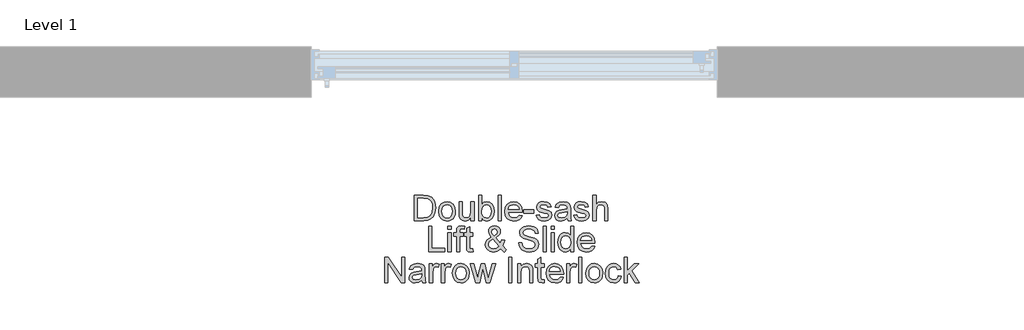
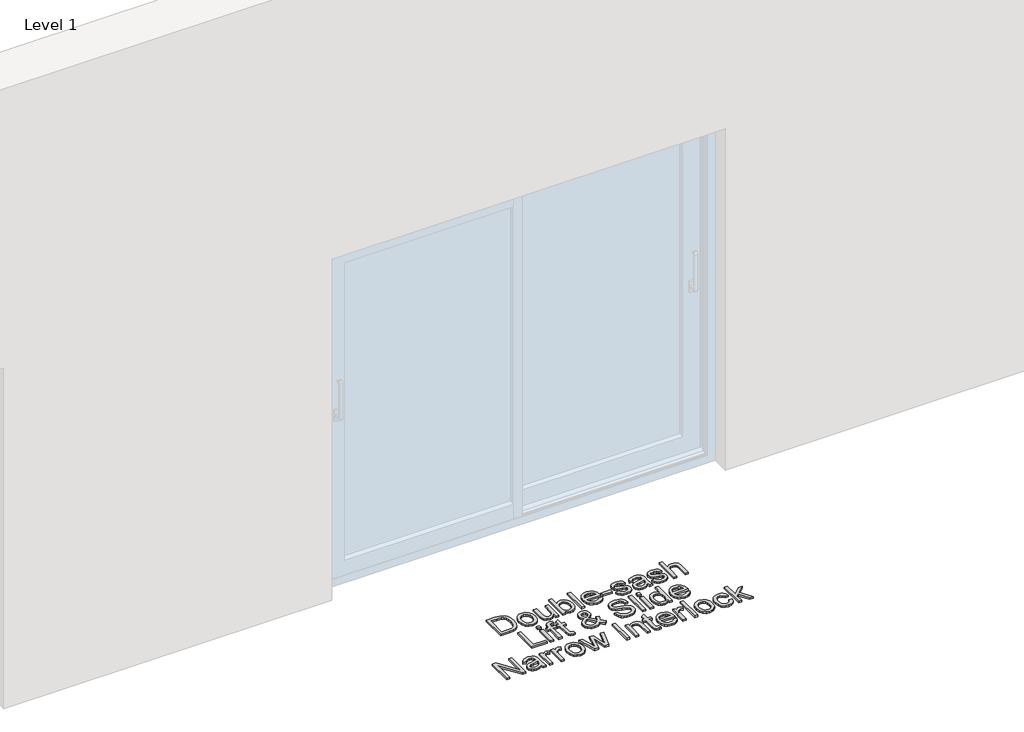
# One storey, part 3 of 13: 1 proxy.
"""IFC4 building model written with IfcOpenShell, lengths in millimetres."""

import ifcopenshell
import ifcopenshell.guid

model = None  # the IFC model being written
_history = None  # IfcOwnerHistory: only IFC2X3 demands one
_inside = {}  # id of a spatial element -> (the spatial element, [elements in it])
_under = {}  # id of a project, library or spatial element -> (it, [spatial elements below it])
_declared = {}  # id of a project -> (the project, [libraries it declares])
_typed = {}  # id of a type object -> (the type object, [elements of that type])
_made_of = {}  # id of a material, layer set ... -> (it, [elements and type objects made of it])


def new_model(schema):
    """Start an empty IFC model of exactly this schema.

    Asked for "IFC4X3", IfcOpenShell would pick the latest addendum, in which some entities
    have other attributes; the version numbers below select the first issue.
    IFC2X3 requires an IfcOwnerHistory on every rooted entity: one is made here for all.
    """
    global model, _history
    if schema == "IFC4X3":
        model = ifcopenshell.file(schema_version=(4, 3, 0, 0))
    else:
        model = ifcopenshell.file(schema=schema)
    _inside.clear()
    _under.clear()
    _declared.clear()
    _typed.clear()
    _made_of.clear()
    _history = None
    if model.schema == "IFC2X3":
        org = make("IfcOrganization", Name="unknown")
        user = make(
            "IfcPersonAndOrganization",
            ThePerson=make("IfcPerson", FamilyName="unknown"),
            TheOrganization=org,
        )
        app = make(
            "IfcApplication",
            ApplicationDeveloper=org,
            Version="unknown",
            ApplicationFullName="unknown",
            ApplicationIdentifier="unknown",
        )
        _history = make(
            "IfcOwnerHistory",
            OwningUser=user,
            OwningApplication=app,
            ChangeAction="ADDED",
            CreationDate=0,
        )
    return model


def make(cls, **values):
    """One entity of the class cls with the attributes given. An attribute that is None is left unset."""
    return model.create_entity(
        cls, **{name: value for name, value in values.items() if value is not None}
    )


def rooted(cls, **values):
    """An entity with a GlobalId (a new one), such as an element, a storey or a relation."""
    return make(cls, GlobalId=ifcopenshell.guid.new(), OwnerHistory=_history, **values)


def si_unit(unit_type, name, prefix=None):
    """IfcSIUnit, for example si_unit("LENGTHUNIT", "METRE", prefix="MILLI")."""
    return make("IfcSIUnit", UnitType=unit_type, Prefix=prefix, Name=name)


def assignment(units):
    """IfcUnitAssignment: the units of a project."""
    return None if units is None else make("IfcUnitAssignment", Units=units)


def point(xyz):
    """IfcCartesianPoint."""
    return None if xyz is None else make("IfcCartesianPoint", Coordinates=xyz)


def direction(xyz):
    """IfcDirection."""
    return None if xyz is None else make("IfcDirection", DirectionRatios=xyz)


def frame(location, z_axis=None, x_axis=None):
    """IfcAxis2Placement3D, a coordinate frame: its origin and axes. An axis left out is left unset."""
    return make(
        "IfcAxis2Placement3D",
        Location=point(location),
        Axis=direction(z_axis),
        RefDirection=direction(x_axis),
    )


def origin():
    """The frame at (0, 0, 0) with its axes left unset."""
    return frame((0.0, 0.0, 0.0))


def origin_with_axes():
    """The frame at (0, 0, 0) with the z axis (0, 0, 1) and the x axis (1, 0, 0) written out."""
    return frame((0.0, 0.0, 0.0), z_axis=(0.0, 0.0, 1.0), x_axis=(1.0, 0.0, 0.0))


def place(relative_to, where):
    """IfcLocalPlacement: puts the frame where relative to a parent placement (None: the world)."""
    return make(
        "IfcLocalPlacement", PlacementRelTo=relative_to, RelativePlacement=where
    )


def context(
    kind, dimensions, precision=None, world=None, true_north=None, identifier=None
):
    """IfcGeometricRepresentationContext, for example the 3D "Model" context."""
    return make(
        "IfcGeometricRepresentationContext",
        ContextIdentifier=identifier,
        ContextType=kind,
        CoordinateSpaceDimension=dimensions,
        Precision=precision,
        WorldCoordinateSystem=world,
        TrueNorth=true_north,
    )


def project(units=None, contexts=None):
    """IfcProject with its units and contexts."""
    return rooted(
        "IfcProject",
        Name="project",
        RepresentationContexts=contexts,
        UnitsInContext=assignment(units),
    )


def spatial(cls, under=None, at=None, **own):
    """A site, building, storey or space (cls), placed at a placement, below another one or the project."""
    s = rooted(cls, ObjectPlacement=at, **own)
    if under is not None:
        _under.setdefault(under.id(), (under, []))[1].append(s)
    return s


def polyline(points):
    """IfcPolyline through the points."""
    return make("IfcPolyline", Points=[point(p) for p in points])


def outline(outer, holes=None, kind="AREA"):
    """IfcArbitraryClosedProfileDef: a profile drawn as a closed curve; with holes, ...WithVoids."""
    if holes is None:
        return make("IfcArbitraryClosedProfileDef", ProfileType=kind, OuterCurve=outer)
    return make(
        "IfcArbitraryProfileDefWithVoids",
        ProfileType=kind,
        OuterCurve=outer,
        InnerCurves=holes,
    )


def extrude(swept, where, along, depth):
    """IfcExtrudedAreaSolid: the profile swept, set in the frame where, extruded along a direction by depth."""
    return make(
        "IfcExtrudedAreaSolid",
        SweptArea=swept,
        Position=where,
        ExtrudedDirection=direction(along),
        Depth=depth,
    )


def shape(context_of_items, identifier, shape_type, items):
    """IfcShapeRepresentation: the items that make up one representation, for example the "Body"."""
    return make(
        "IfcShapeRepresentation",
        ContextOfItems=context_of_items,
        RepresentationIdentifier=identifier,
        RepresentationType=shape_type,
        Items=items,
    )


def made_of(thing, what):
    """Note that an element or type object is made of a material, layer set ...; save() writes the relation."""
    if what is not None:
        _made_of.setdefault(what.id(), (what, []))[1].append(thing)
    return thing


def element(
    cls,
    number,
    at=None,
    inside=None,
    cuts=None,
    type_object=None,
    material=None,
    context=None,
    identifier="Body",
    shape_type=None,
    held_by="IfcProductDefinitionShape",
    body=None,
    shapes=None,
    **own,
):
    """One element of the class cls, such as IfcWall. Its Tag is "e" and its number.

    at: its placement. inside: the storey or other place that contains it. cuts: it is an
    opening in that element (IfcRelVoidsElement). A single representation is given by context,
    identifier, shape_type and body (its items); several are given by shapes. held_by: the class
    of the entity that holds the representations. save() writes the other relations.
    """
    e = rooted(cls, Tag="e%d" % number, ObjectPlacement=at, **own)
    if body is not None:
        shapes = [shape(context, identifier, shape_type, body)]
    if shapes is not None:
        e.Representation = make(held_by, Representations=shapes)
    if inside is not None:
        _inside.setdefault(inside.id(), (inside, []))[1].append(e)
    if cuts is not None:
        rooted(
            "IfcRelVoidsElement", RelatingBuildingElement=cuts, RelatedOpeningElement=e
        )
    if type_object is not None:
        _typed.setdefault(type_object.id(), (type_object, []))[1].append(e)
    return made_of(e, material)


def aggregate(whole, parts):
    """IfcRelAggregates: a whole, such as a stair, and the parts it consists of."""
    return rooted("IfcRelAggregates", RelatingObject=whole, RelatedObjects=parts)


def save(model, path):
    """Write the relations noted so far, then the file.

    IfcRelAggregates (storeys below a building ...), IfcRelContainedInSpatialStructure (elements
    in a storey), IfcRelDefinesByType, IfcRelAssociatesMaterial and IfcRelDeclares: one each for
    every whole, place, type object, material and project.
    """
    for whole, parts in _under.values():
        aggregate(whole, parts)
    for where, things in _inside.values():
        rooted(
            "IfcRelContainedInSpatialStructure",
            RelatedElements=things,
            RelatingStructure=where,
        )
    for kind, things in _typed.values():
        rooted("IfcRelDefinesByType", RelatedObjects=things, RelatingType=kind)
    for what, things in _made_of.values():
        rooted("IfcRelAssociatesMaterial", RelatedObjects=things, RelatingMaterial=what)
    for by, libraries in _declared.values():
        rooted("IfcRelDeclares", RelatingContext=by, RelatedDefinitions=libraries)
    model.write(path)


model = new_model("IFC4")

# Units and contexts
model_context = context("Model", 3, world=origin())
ifc_project = project(units=[si_unit("LENGTHUNIT", "METRE", prefix="MILLI")], contexts=[model_context])

# Site, building, storey
site = spatial("IfcSite", under=ifc_project)
building = spatial("IfcBuilding", under=site)
storey = spatial("IfcBuildingStorey", under=building, Name="Level 1", Elevation=0.0)

# Proxy
placement = place(None, origin())
element("IfcBuildingElementProxy", 1, Name="150mm Arial", ObjectType="150mm Arial", at=placement, inside=storey, context=model_context, shape_type="SweptSolid", body=[
    extrude(outline(polyline([(-1811.5990485, -897.6627533), (-1811.5990485, -746.9782881), (-1759.6173226, -746.9782881), (-1732.7251487, -749.1487919), (-1710.5786526, -759.9277343), (-1700.1583951, -771.4056526), (-1692.7363758, -785.679474), (-1688.2942007, -802.4732871), (-1686.8134757, -821.5111803), (-1690.8233895, -851.9166272), (-1701.1240853, -873.8607883), (-1714.8828719, -887.5276044), (-1732.8906956, -895.0875794), (-1757.115725, -897.6627533), (-1811.5990485, -897.6627533)]), holes=[polyline([(-1792.7634903, -878.8271952), (-1759.4333816, -878.8271952), (-1735.1899581, -876.1048684), (-1721.2104423, -868.4161347), (-1709.7509181, -849.7093353), (-1705.6490339, -821.2168747), (-1707.6585893, -800.6890594), (-1713.6872555, -785.5323212), (-1722.5945983, -775.1212607), (-1733.2401835, -768.8304786), (-1759.9484164, -765.8138463), (-1792.7634903, -765.8138463), (-1792.7634903, -878.8271952)])]), origin_with_axes(), (0.0, 0.0, 1.0), 10.0),
    extrude(outline(polyline([(-1667.9779176, -842.3333013), (-1663.9036245, -815.6526596), (-1651.6807452, -796.8998749), (-1636.5791893, -787.712022), (-1618.4977892, -784.6494044), (-1598.7103364, -788.3788081), (-1582.9052062, -799.5670193), (-1572.5447295, -817.3311212), (-1569.0912373, -840.7881969), (-1570.6179475, -859.8168931), (-1575.1980784, -874.3022466), (-1582.6982726, -885.150167), (-1592.9851728, -893.2665635), (-1605.2034536, -898.3295395), (-1618.4977892, -900.0171981), (-1638.5243653, -896.30159), (-1654.3111014, -885.1547655), (-1664.5612135, -867.0181831), (-1667.9779176, -842.3333013)]), holes=[polyline([(-1649.1423594, -842.2965131), (-1646.9626586, -859.343245), (-1640.4235561, -871.4879494), (-1630.5827127, -878.7582173), (-1618.4977892, -881.18164), (-1606.468048, -878.7444217), (-1596.6455987, -871.4327671), (-1590.1064962, -859.1271143), (-1587.9267954, -841.7079019), (-1590.1202918, -825.1578106), (-1596.700781, -813.1786531), (-1606.5370258, -805.9083852), (-1618.4977892, -803.4849626), (-1630.5827127, -805.8991882), (-1640.4235561, -813.141865), (-1646.9626586, -825.2589782), (-1649.1423594, -842.2965131)])]), origin_with_axes(), (0.0, 0.0, 1.0), 10.0),
    extrude(outline(polyline([(-1477.2678913, -897.6627533), (-1477.2678913, -878.6432542), (-1492.0199593, -894.6737121), (-1511.2601876, -900.0171981), (-1528.9737057, -896.2648018), (-1541.1873879, -886.8470227), (-1546.7975883, -872.9778715), (-1547.9012343, -855.4666885), (-1547.9012343, -787.0038492), (-1529.0656762, -787.0038492), (-1529.0656762, -846.6007324), (-1527.925242, -865.8041726), (-1520.4756316, -877.0797557), (-1506.4409335, -881.18164), (-1490.7139782, -876.9877852), (-1480.3213118, -865.5650493), (-1477.2678913, -844.5773814), (-1477.2678913, -787.0038492), (-1458.4323331, -787.0038492), (-1458.4323331, -897.6627533), (-1477.2678913, -897.6627533)])), origin_with_axes(), (0.0, 0.0, 1.0), 10.0),
    extrude(outline(polyline([(-1413.6978825, -897.6627533), (-1432.5334406, -897.6627533), (-1432.5334406, -746.9782881), (-1413.6978825, -746.9782881), (-1413.6978825, -802.8595632), (-1400.509313, -789.2019441), (-1384.1201701, -784.6494044), (-1365.2478237, -788.7512887), (-1350.6061203, -800.2843892), (-1341.6114055, -818.2186365), (-1338.3556499, -840.6778323), (-1341.7263687, -865.8225667), (-1351.838525, -884.5293661), (-1366.677965, -896.1452401), (-1384.2305347, -900.0171981), (-1400.9783625, -895.0232), (-1413.6978825, -880.0412058), (-1413.6978825, -897.6627533)]), holes=[polyline([(-1413.6978825, -841.5607491), (-1412.4102955, -857.2693103), (-1408.5475346, -867.9010999), (-1398.6791, -877.861505), (-1385.8492155, -881.18164), (-1374.9783025, -878.7352247), (-1365.6892821, -871.3959789), (-1359.3157266, -859.2098878), (-1357.191208, -842.2229367), (-1359.2283546, -824.9876652), (-1365.3397942, -812.9395299), (-1374.3391075, -805.8486044), (-1385.0398751, -803.4849626), (-1395.910788, -805.9313778), (-1405.1998084, -813.2706236), (-1411.573364, -825.2359855), (-1413.6978825, -841.5607491)])]), origin_with_axes(), (0.0, 0.0, 1.0), 10.0),
    extrude(outline(polyline([(-1317.165647, -897.6627533), (-1317.165647, -746.9782881), (-1298.3300888, -746.9782881), (-1298.3300888, -897.6627533), (-1317.165647, -897.6627533)])), origin_with_axes(), (0.0, 0.0, 1.0), 10.0),
    extrude(outline(polyline([(-1192.6008034, -864.7005266), (-1174.1331272, -867.0549713), (-1180.7871928, -880.9701078), (-1191.4051869, -891.3719712), (-1205.7479862, -897.8558914), (-1223.5764674, -900.0171981), (-1245.6769782, -896.2877944), (-1262.6823235, -885.0995832), (-1273.5256453, -867.1791315), (-1277.1400859, -843.2530063), (-1273.4888571, -818.5221391), (-1262.5351707, -800.0268718), (-1245.7597517, -788.4937713), (-1224.6433252, -784.6494044), (-1204.1844877, -788.4845742), (-1187.8367316, -799.9900836), (-1177.1175699, -818.4485627), (-1173.544516, -843.1426417), (-1173.6548806, -848.2194132), (-1258.3045277, -848.2194132), (-1255.0441735, -862.3184907), (-1247.470403, -872.6835659), (-1236.5397092, -879.0571214), (-1223.2085854, -881.18164), (-1204.7409092, -877.2453026), (-1192.6008034, -864.7005266)]), holes=[polyline([(-1258.3045277, -829.383855), (-1192.3800742, -829.383855), (-1194.927657, -819.4326471), (-1199.9216551, -812.3141305), (-1210.9029326, -805.6922545), (-1224.7169016, -803.4849626), (-1237.4134289, -805.2461976), (-1247.9118614, -810.5299028), (-1255.2097204, -818.765861), (-1258.3045277, -829.383855)])]), origin_with_axes(), (0.0, 0.0, 1.0), 10.0),
    extrude(outline(polyline([(-1164.126737, -852.9283027), (-1164.126737, -834.0927446), (-1105.2656177, -834.0927446), (-1105.2656177, -852.9283027), (-1164.126737, -852.9283027)])), origin_with_axes(), (0.0, 0.0, 1.0), 10.0),
    extrude(outline(polyline([(-1091.1389491, -864.7005266), (-1072.303391, -862.3460818), (-1069.3327439, -870.4026975), (-1063.5845877, -876.3255976), (-1043.6085953, -881.18164), (-1024.4051552, -876.7302678), (-1018.1511613, -866.2824192), (-1019.7238568, -861.4815591), (-1024.4419434, -857.8211333), (-1043.8293245, -852.4500561), (-1072.1930264, -843.2346122), (-1084.5722555, -832.4740638), (-1088.7845044, -817.2805374), (-1085.39999, -803.2458393), (-1076.1661519, -792.5220791), (-1064.191593, -786.9486669), (-1047.9863911, -784.6494044), (-1025.0673428, -788.3466185), (-1010.4992158, -798.3530087), (-1004.0244927, -815.2571864), (-1022.8600508, -817.6116312), (-1029.9417792, -807.2189648), (-1046.5148631, -803.4849626), (-1064.5410809, -807.0534179), (-1069.9489462, -815.367551), (-1067.704866, -820.8489927), (-1060.6783199, -825.0060593), (-1044.4547239, -829.015973), (-1016.808392, -837.8819291), (-1003.9693104, -847.9251076), (-999.3156031, -864.2958564), (-1004.7786508, -882.3220741), (-1020.5423942, -895.4002791), (-1043.8661127, -900.0171981), (-1062.8580207, -897.791512), (-1076.7179749, -891.1144538), (-1085.9702071, -880.0595999), (-1091.1389491, -864.7005266)])), origin_with_axes(), (0.0, 0.0, 1.0), 10.0),
    extrude(outline(polyline([(-907.4922571, -883.5360847), (-925.7575982, -896.30159), (-945.9359256, -900.0171981), (-961.6766765, -897.782315), (-973.287952, -891.0776656), (-980.4478553, -880.8965314), (-982.8344897, -868.2321937), (-979.2292462, -853.3329729), (-969.7562848, -842.5172423), (-956.5677153, -836.3368247), (-940.2705429, -833.5041334), (-907.6026217, -827.0294103), (-907.4922571, -822.8355555), (-908.7890412, -814.4294519), (-912.6793933, -808.9296161), (-921.3798024, -804.846126), (-933.5015142, -803.4849626), (-952.5578015, -807.1086002), (-961.6444868, -819.966076), (-980.480045, -817.6116312), (-972.3314588, -799.2175314), (-955.9239218, -788.438589), (-931.073493, -784.6494044), (-908.2464152, -787.9971306), (-895.3521513, -796.4032342), (-889.576404, -809.1871335), (-888.656699, -825.6682469), (-888.656699, -849.10233), (-887.7002058, -881.8254334), (-883.9478094, -897.6627533), (-902.7833676, -897.6627533), (-907.4922571, -883.5360847)]), holes=[polyline([(-907.4922571, -845.8649684), (-937.8793099, -851.6407157), (-954.0845118, -854.6941363), (-961.4237576, -859.6605432), (-963.9989316, -866.9078185), (-958.3887312, -877.0981498), (-941.9260119, -881.18164), (-922.8697245, -876.6750855), (-910.5824659, -865.7673844), (-907.6026217, -851.1992574), (-907.4922571, -845.8649684)])]), origin_with_axes(), (0.0, 0.0, 1.0), 10.0),
    extrude(outline(polyline([(-869.8211408, -864.7005266), (-850.9855827, -862.3460818), (-848.0149356, -870.4026975), (-842.2667794, -876.3255976), (-822.290787, -881.18164), (-803.0873469, -876.7302678), (-796.833353, -866.2824192), (-798.4060485, -861.4815591), (-803.1241351, -857.8211333), (-822.5115162, -852.4500561), (-850.8752181, -843.2346122), (-863.2544472, -832.4740638), (-867.4666961, -817.2805374), (-864.0821817, -803.2458393), (-854.8483436, -792.5220791), (-842.8737847, -786.9486669), (-826.6685828, -784.6494044), (-803.7495345, -788.3466185), (-789.1814075, -798.3530087), (-782.7066844, -815.2571864), (-801.5422425, -817.6116312), (-808.6239709, -807.2189648), (-825.1970548, -803.4849626), (-843.2232726, -807.0534179), (-848.6311379, -815.367551), (-846.3870577, -820.8489927), (-839.3605116, -825.0060593), (-823.1369156, -829.015973), (-795.4905837, -837.8819291), (-782.6515021, -847.9251076), (-777.9977948, -864.2958564), (-783.4608425, -882.3220741), (-799.2245859, -895.4002791), (-822.5483044, -900.0171981), (-841.5402124, -897.791512), (-855.4001666, -891.1144538), (-864.6523988, -880.0595999), (-869.8211408, -864.7005266)])), origin_with_axes(), (0.0, 0.0, 1.0), 10.0),
    extrude(outline(polyline([(-756.8077919, -897.6627533), (-756.8077919, -746.9782881), (-737.9722338, -746.9782881), (-737.9722338, -802.3813166), (-723.2845451, -789.0823825), (-705.193948, -784.6494044), (-684.0407333, -789.4870527), (-671.2016516, -802.8595632), (-667.3388907, -827.6180215), (-667.3388907, -897.6627533), (-686.1744488, -897.6627533), (-686.1744488, -829.567796), (-687.673568, -817.7771781), (-692.1709254, -809.7021683), (-699.4182007, -805.039264), (-709.1670735, -803.4849626), (-724.5997232, -807.6788173), (-734.9004191, -819.046371), (-737.9722338, -838.8752105), (-737.9722338, -897.6627533), (-756.8077919, -897.6627533)])), origin_with_axes(), (0.0, 0.0, 1.0), 10.0),
    extrude(outline(polyline([(-1726.8390368, -1080.6249801), (-1726.8390368, -929.9405149), (-1708.0034786, -929.9405149), (-1708.0034786, -1061.789422), (-1632.661246, -1061.789422), (-1632.661246, -1080.6249801), (-1726.8390368, -1080.6249801)])), origin_with_axes(), (0.0, 0.0, 1.0), 10.0),
    extrude(outline(polyline([(-1613.8256879, -948.776073), (-1613.8256879, -929.9405149), (-1594.9901297, -929.9405149), (-1594.9901297, -948.776073), (-1613.8256879, -948.776073)])), origin_with_axes(), (0.0, 0.0, 1.0), 10.0),
    extrude(outline(polyline([(-1613.8256879, -1080.6249801), (-1613.8256879, -969.966076), (-1594.9901297, -969.966076), (-1594.9901297, -1080.6249801), (-1613.8256879, -1080.6249801)])), origin_with_axes(), (0.0, 0.0, 1.0), 10.0),
    extrude(outline(polyline([(-1562.0279029, -1080.6249801), (-1562.0279029, -988.8016341), (-1578.5090163, -988.8016341), (-1578.5090163, -969.966076), (-1562.0279029, -969.966076), (-1562.0279029, -958.8192515), (-1560.0413402, -943.1106903), (-1550.4028319, -931.8902895), (-1531.4201209, -927.5860701), (-1514.2400318, -929.6462093), (-1516.9991467, -947.3045451), (-1527.8516656, -946.4216283), (-1539.7158599, -949.5486252), (-1543.1923448, -961.2104845), (-1543.1923448, -969.966076), (-1522.0023419, -969.966076), (-1522.0023419, -988.8016341), (-1543.1923448, -988.8016341), (-1543.1923448, -1080.6249801), (-1562.0279029, -1080.6249801)])), origin_with_axes(), (0.0, 0.0, 1.0), 10.0),
    extrude(outline(polyline([(-1465.4956674, -1064.9164189), (-1463.1412226, -1081.1768031), (-1477.2311031, -1082.9794249), (-1493.0132407, -1079.8524279), (-1500.8859153, -1071.6486594), (-1503.1667837, -1050.2747155), (-1503.1667837, -988.8016341), (-1517.2934523, -988.8016341), (-1517.2934523, -969.966076), (-1503.1667837, -969.966076), (-1503.1667837, -943.0739021), (-1484.3312256, -932.0006541), (-1484.3312256, -969.966076), (-1465.4956674, -969.966076), (-1465.4956674, -988.8016341), (-1484.3312256, -988.8016341), (-1484.3312256, -1049.7228925), (-1483.3379442, -1059.4349772), (-1480.1189767, -1062.8746738), (-1473.6994359, -1064.1438667), (-1465.4956674, -1064.9164189)])), origin_with_axes(), (0.0, 0.0, 1.0), 10.0),
    extrude(outline(polyline([(-1301.3835094, -1062.0101512), (-1321.3595017, -1077.7371064), (-1344.7200084, -1082.9794249), (-1365.5053411, -1079.0982698), (-1381.5082079, -1067.4548047), (-1389.7579617, -1054.054703), (-1392.5078796, -1039.1646793), (-1390.2959891, -1025.9669127), (-1383.6603176, -1014.1119154), (-1372.6284563, -1003.6088844), (-1357.2279962, -994.4670168), (-1370.3797776, -975.4107295), (-1373.6723214, -961.2840609), (-1371.0787533, -948.5645409), (-1363.2980492, -937.6292486), (-1351.5902047, -930.0968647), (-1337.2152157, -927.5860701), (-1323.5392025, -929.9865001), (-1312.6039102, -937.1877902), (-1305.4302113, -947.7552005), (-1303.0389783, -960.2539913), (-1304.8094104, -970.7478252), (-1310.1207067, -980.4507128), (-1331.365892, -997.4836492), (-1304.1058361, -1031.4391574), (-1295.975644, -1010.5802482), (-1277.1400859, -1014.6637384), (-1290.4574141, -1045.6761906), (-1267.7223068, -1068.4848743), (-1281.8489754, -1082.9794249), (-1301.3835094, -1062.0101512)]), holes=[polyline([(-1340.8940356, -985.6010608), (-1325.4062036, -973.9208074), (-1321.8745365, -962.8291653), (-1326.5282437, -951.0017591), (-1338.1717089, -946.4216283), (-1350.0726914, -950.9649709), (-1354.8367633, -962.0566131), (-1353.2180825, -968.9544005), (-1348.3252519, -976.6247401), (-1340.8940356, -985.6010608)]), polyline([(-1314.0018618, -1048.4353055), (-1347.6262762, -1006.4599699), (-1368.3196384, -1022.2421075), (-1373.6723214, -1036.6630817), (-1371.8421085, -1045.5474319), (-1366.3514697, -1054.7628758), (-1357.5039077, -1061.798619), (-1345.6029252, -1064.1438667), (-1328.2940773, -1059.766071), (-1314.0018618, -1048.4353055)])]), origin_with_axes(), (0.0, 0.0, 1.0), 10.0),
    extrude(outline(polyline([(-1194.734519, -1028.8271952), (-1175.8989608, -1028.8271952), (-1169.8289079, -1047.6811474), (-1155.0032635, -1059.6005241), (-1132.415309, -1064.1438667), (-1112.7336222, -1060.7041701), (-1100.0232993, -1051.2496028), (-1095.8478387, -1038.6128563), (-1098.9748356, -1026.8590265), (-1111.777129, -1018.3057701), (-1139.2027318, -1011.1136771), (-1168.7252619, -1001.8246567), (-1184.7465228, -987.8083527), (-1190.0256294, -969.0831592), (-1188.3931531, -958.0512978), (-1183.495724, -947.7643976), (-1175.4621009, -939.0455943), (-1164.4210426, -932.7180239), (-1136.4987991, -927.5860701), (-1106.7003575, -932.9571472), (-1095.2776216, -939.5882202), (-1086.8347298, -948.7392848), (-1081.4912438, -959.840124), (-1079.3667253, -972.3205207), (-1098.2022834, -972.3205207), (-1101.6603742, -961.0817258), (-1108.8708613, -952.9699278), (-1120.1372474, -948.0587031), (-1135.7630351, -946.4216283), (-1151.7567049, -948.040309), (-1162.7287854, -952.8963514), (-1169.0747498, -960.0424591), (-1171.1900713, -968.5313362), (-1169.6909521, -975.7694144), (-1165.1935947, -981.591147), (-1134.43866, -992.1125721), (-1101.1085512, -1001.5671393), (-1090.3709955, -1008.4005474), (-1082.8799983, -1016.8342421), (-1078.47921, -1026.7762531), (-1077.0122805, -1038.1346097), (-1078.6999392, -1049.7458851), (-1083.7629151, -1060.6673819), (-1091.9942748, -1070.0667668), (-1103.1870845, -1077.1117071), (-1116.646967, -1081.5124954), (-1131.679545, -1082.9794249), (-1150.1334256, -1081.3975323), (-1165.3223534, -1076.6518546), (-1177.4210726, -1068.7239976), (-1186.6043269, -1057.5955672), (-1192.4996358, -1044.0391157), (-1194.734519, -1028.8271952)])), origin_with_axes(), (0.0, 0.0, 1.0), 10.0),
    extrude(outline(polyline([(-1051.113388, -1080.6249801), (-1051.113388, -929.9405149), (-1032.2778299, -929.9405149), (-1032.2778299, -1080.6249801), (-1051.113388, -1080.6249801)])), origin_with_axes(), (0.0, 0.0, 1.0), 10.0),
    extrude(outline(polyline([(-1004.0244927, -948.776073), (-1004.0244927, -929.9405149), (-985.1889345, -929.9405149), (-985.1889345, -948.776073), (-1004.0244927, -948.776073)])), origin_with_axes(), (0.0, 0.0, 1.0), 10.0),
    extrude(outline(polyline([(-1004.0244927, -1080.6249801), (-1004.0244927, -969.966076), (-985.1889345, -969.966076), (-985.1889345, -1080.6249801), (-1004.0244927, -1080.6249801)])), origin_with_axes(), (0.0, 0.0, 1.0), 10.0),
    extrude(outline(polyline([(-888.656699, -1080.6249801), (-888.656699, -1062.8562797), (-901.1187016, -1077.9486386), (-918.344776, -1082.9794249), (-930.52167, -1081.158409), (-941.6684945, -1075.6953614), (-951.1046677, -1066.9719596), (-958.1496079, -1055.3698811), (-962.5366007, -1041.3581756), (-963.9989316, -1025.4058926), (-958.6094604, -995.42351), (-951.8772198, -983.5317245), (-942.4594408, -974.7853301), (-931.0688945, -969.4050559), (-918.4183524, -967.6116312), (-901.0543222, -972.743585), (-888.656699, -986.0793073), (-888.656699, -929.9405149), (-869.8211408, -929.9405149), (-869.8211408, -1080.6249801), (-888.656699, -1080.6249801)]), holes=[polyline([(-945.1633734, -1025.3323162), (-943.0388549, -1042.3698511), (-936.6652993, -1054.4869644), (-927.4038701, -1061.7296411), (-916.6157306, -1064.1438667), (-905.8321896, -1061.8400057), (-896.8052852, -1054.9284227), (-890.6938455, -1043.2803591), (-888.656699, -1026.767056), (-890.7306337, -1008.7132471), (-896.952438, -996.1960622), (-906.2092687, -988.8844076), (-917.3882828, -986.4471893), (-928.2867869, -988.7878385), (-937.2171223, -995.8097861), (-943.1768107, -1007.871717), (-945.1633734, -1025.3323162)])]), origin_with_axes(), (0.0, 0.0, 1.0), 10.0),
    extrude(outline(polyline([(-764.0918554, -1047.6627533), (-745.6241792, -1050.0171981), (-752.2782448, -1063.9323346), (-762.8962389, -1074.334198), (-777.2390382, -1080.8181182), (-795.0675194, -1082.9794249), (-817.1680303, -1079.2500212), (-834.1733755, -1068.06181), (-845.0166973, -1050.1413583), (-848.6311379, -1026.215233), (-844.9799091, -1001.4843659), (-834.0262227, -982.9890986), (-817.2508037, -971.455998), (-796.1343772, -967.6116312), (-775.6755397, -971.446801), (-759.3277836, -982.9523104), (-748.6086219, -1001.4107895), (-745.0355681, -1026.1048684), (-745.1459327, -1031.18164), (-829.7955797, -1031.18164), (-826.5352256, -1045.2807174), (-818.961455, -1055.6457926), (-808.0307612, -1062.0193482), (-794.6996374, -1064.1438667), (-776.2319612, -1060.2075294), (-764.0918554, -1047.6627533)]), holes=[polyline([(-829.7955797, -1012.3460818), (-763.8711262, -1012.3460818), (-766.418709, -1002.3948738), (-771.4127071, -995.2763572), (-782.3939847, -988.6544813), (-796.2079536, -986.4471893), (-808.9044809, -988.2084244), (-819.4029134, -993.4921296), (-826.7007725, -1001.7280877), (-829.7955797, -1012.3460818)])]), origin_with_axes(), (0.0, 0.0, 1.0), 10.0),
    extrude(outline(polyline([(-1987.0051838, -1263.5872069), (-1987.0051838, -1112.9027417), (-1966.8452504, -1112.9027417), (-1888.1185035, -1232.2804491), (-1888.1185035, -1112.9027417), (-1869.2829453, -1112.9027417), (-1869.2829453, -1263.5872069), (-1889.4428787, -1263.5872069), (-1968.1696256, -1144.1727112), (-1968.1696256, -1263.5872069), (-1987.0051838, -1263.5872069)])), origin_with_axes(), (0.0, 0.0, 1.0), 10.0),
    extrude(outline(polyline([(-1768.0418202, -1249.4605383), (-1786.3071613, -1262.2260435), (-1806.4854887, -1265.9416516), (-1822.2262396, -1263.7067685), (-1833.8375151, -1257.0021192), (-1840.9974184, -1246.8209849), (-1843.3840529, -1234.1566473), (-1839.7788093, -1219.2574265), (-1830.3058479, -1208.4416958), (-1817.1172784, -1202.2612783), (-1800.820106, -1199.4285869), (-1768.1521848, -1192.9538638), (-1768.0418202, -1188.7600091), (-1769.3386043, -1180.3539055), (-1773.2289564, -1174.8540696), (-1781.9293656, -1170.7705795), (-1794.0510773, -1169.4094161), (-1813.1073647, -1173.0330538), (-1822.1940499, -1185.8905295), (-1841.0296081, -1183.5360847), (-1832.8810219, -1165.141985), (-1816.4734849, -1154.3630425), (-1791.6230561, -1150.573858), (-1768.7959783, -1153.9215841), (-1755.9017144, -1162.3276877), (-1750.1259671, -1175.111587), (-1749.2062621, -1191.5927004), (-1749.2062621, -1215.0267835), (-1748.2497689, -1247.749887), (-1744.4973726, -1263.5872069), (-1763.3329307, -1263.5872069), (-1768.0418202, -1249.4605383)]), holes=[polyline([(-1768.0418202, -1211.789422), (-1798.428873, -1217.5651693), (-1814.6340749, -1220.6185898), (-1821.9733207, -1225.5849968), (-1824.5484947, -1232.8322721), (-1818.9382943, -1243.0226033), (-1802.475575, -1247.1060935), (-1783.4192876, -1242.5995391), (-1771.132029, -1231.6918379), (-1768.1521848, -1217.1237109), (-1768.0418202, -1211.789422)])]), origin_with_axes(), (0.0, 0.0, 1.0), 10.0),
    extrude(outline(polyline([(-1723.3073696, -1263.5872069), (-1723.3073696, -1152.9283027), (-1706.8262562, -1152.9283027), (-1706.8262562, -1169.2990515), (-1695.1276088, -1154.2158897), (-1683.355385, -1150.573858), (-1664.4462504, -1156.3863935), (-1670.7370325, -1173.2721771), (-1683.9807843, -1169.4094161), (-1694.6309681, -1173.1250243), (-1701.4183909, -1183.4257201), (-1704.4718115, -1205.4250634), (-1704.4718115, -1263.5872069), (-1723.3073696, -1263.5872069)])), origin_with_axes(), (0.0, 0.0, 1.0), 10.0),
    extrude(outline(polyline([(-1652.6740266, -1263.5872069), (-1652.6740266, -1152.9283027), (-1636.1929132, -1152.9283027), (-1636.1929132, -1169.2990515), (-1624.4942657, -1154.2158897), (-1612.7220419, -1150.573858), (-1593.8129073, -1156.3863935), (-1600.1036894, -1173.2721771), (-1613.3474413, -1169.4094161), (-1623.997625, -1173.1250243), (-1630.7850478, -1183.4257201), (-1633.8384684, -1205.4250634), (-1633.8384684, -1263.5872069), (-1652.6740266, -1263.5872069)])), origin_with_axes(), (0.0, 0.0, 1.0), 10.0),
    extrude(outline(polyline([(-1586.749573, -1208.2577548), (-1582.6752799, -1181.5771131), (-1570.4524006, -1162.8243284), (-1555.3508447, -1153.6364756), (-1537.2694447, -1150.573858), (-1517.4819919, -1154.3032617), (-1501.6768616, -1165.4914729), (-1491.3163849, -1183.2555747), (-1487.8628927, -1206.7126504), (-1489.389603, -1225.7413466), (-1493.9697338, -1240.2267002), (-1501.469928, -1251.0746205), (-1511.7568283, -1259.191017), (-1523.9751091, -1264.253993), (-1537.2694447, -1265.9416516), (-1557.2960208, -1262.2260435), (-1573.0827569, -1251.079219), (-1583.332869, -1232.9426367), (-1586.749573, -1208.2577548)]), holes=[polyline([(-1567.9140149, -1208.2209666), (-1565.734314, -1225.2676986), (-1559.1952116, -1237.4124029), (-1549.3543682, -1244.6826709), (-1537.2694447, -1247.1060935), (-1525.2397034, -1244.6688753), (-1515.4172542, -1237.3572206), (-1508.8781517, -1225.0515679), (-1506.6984509, -1207.6323554), (-1508.8919473, -1191.0822642), (-1515.4724365, -1179.1031067), (-1525.3086813, -1171.8328388), (-1537.2694447, -1169.4094161), (-1549.3543682, -1171.8236417), (-1559.1952116, -1179.0663185), (-1565.734314, -1191.1834317), (-1567.9140149, -1208.2209666)])]), origin_with_axes(), (0.0, 0.0, 1.0), 10.0),
    extrude(outline(polyline([(-1448.3155782, -1263.5872069), (-1481.9767808, -1152.9283027), (-1462.4054587, -1152.9283027), (-1443.3123831, -1217.4915929), (-1437.6102122, -1240.557794), (-1432.9381108, -1218.3377215), (-1417.7445844, -1152.9283027), (-1395.3037827, -1152.9283027), (-1380.1838327, -1218.1537805), (-1376.0267662, -1238.2769256), (-1370.0670779, -1217.0501345), (-1350.9372141, -1152.9283027), (-1331.2923156, -1152.9283027), (-1365.2110355, -1263.5872069), (-1387.982931, -1263.5872069), (-1402.4406934, -1198.6928229), (-1406.6345482, -1178.4593132), (-1425.2861653, -1263.5872069), (-1448.3155782, -1263.5872069)])), origin_with_axes(), (0.0, 0.0, 1.0), 10.0),
    extrude(outline(polyline([(-1254.7728606, -1263.5872069), (-1254.7728606, -1112.9027417), (-1235.9373024, -1112.9027417), (-1235.9373024, -1263.5872069), (-1254.7728606, -1263.5872069)])), origin_with_axes(), (0.0, 0.0, 1.0), 10.0),
    extrude(outline(polyline([(-1200.6206309, -1263.5872069), (-1200.6206309, -1152.9283027), (-1181.7850727, -1152.9283027), (-1181.7850727, -1168.3793465), (-1167.3824926, -1155.0252301), (-1147.7192, -1150.573858), (-1129.9321055, -1154.1607074), (-1117.7919997, -1163.5784865), (-1112.145011, -1177.4292436), (-1111.1517297, -1195.6394024), (-1111.1517297, -1263.5872069), (-1129.9872878, -1263.5872069), (-1129.9872878, -1198.1777881), (-1132.1577916, -1181.5127338), (-1139.8281312, -1172.70196), (-1152.7591833, -1169.4094161), (-1163.7910446, -1171.2580231), (-1173.1950281, -1176.8038442), (-1179.6375616, -1187.5184073), (-1181.7850727, -1204.8732404), (-1181.7850727, -1263.5872069), (-1200.6206309, -1263.5872069)])), origin_with_axes(), (0.0, 0.0, 1.0), 10.0),
    extrude(outline(polyline([(-1045.2272761, -1247.8786457), (-1042.8728314, -1264.1390299), (-1056.9627118, -1265.9416516), (-1072.7448494, -1262.8146547), (-1080.6175241, -1254.6108862), (-1082.8983924, -1233.2369423), (-1082.8983924, -1171.7638609), (-1097.025061, -1171.7638609), (-1097.025061, -1152.9283027), (-1082.8983924, -1152.9283027), (-1082.8983924, -1126.0361289), (-1064.0628343, -1114.9628808), (-1064.0628343, -1152.9283027), (-1045.2272761, -1152.9283027), (-1045.2272761, -1171.7638609), (-1064.0628343, -1171.7638609), (-1064.0628343, -1232.6851193), (-1063.0695529, -1242.397204), (-1059.8505854, -1245.8369006), (-1053.4310446, -1247.1060935), (-1045.2272761, -1247.8786457)])), origin_with_axes(), (0.0, 0.0, 1.0), 10.0),
    extrude(outline(polyline([(-948.9157698, -1230.6249801), (-930.4480936, -1232.9794249), (-937.1021592, -1246.8945613), (-947.7201533, -1257.2964248), (-962.0629526, -1263.7803449), (-979.8914338, -1265.9416516), (-1001.9919446, -1262.2122479), (-1018.9972899, -1251.0240367), (-1029.8406117, -1233.1035851), (-1033.4550523, -1209.1774598), (-1029.8038235, -1184.4465927), (-1018.8501371, -1165.9513254), (-1002.0747181, -1154.4182248), (-980.9582916, -1150.573858), (-960.4994541, -1154.4090278), (-944.1516979, -1165.9145372), (-933.4325363, -1184.3730163), (-929.8594824, -1209.0670952), (-929.969847, -1214.1438667), (-1014.6194941, -1214.1438667), (-1011.3591399, -1228.2429442), (-1003.7853694, -1238.6080194), (-992.8546756, -1244.981575), (-979.5235518, -1247.1060935), (-961.0558756, -1243.1697561), (-948.9157698, -1230.6249801)]), holes=[polyline([(-1014.6194941, -1195.3083086), (-948.6950406, -1195.3083086), (-951.2426234, -1185.3571006), (-956.2366215, -1178.238584), (-967.217899, -1171.6167081), (-981.031868, -1169.4094161), (-993.7283953, -1171.1706512), (-1004.2268278, -1176.4543563), (-1011.5246868, -1184.6903145), (-1014.6194941, -1195.3083086)])]), origin_with_axes(), (0.0, 0.0, 1.0), 10.0),
    extrude(outline(polyline([(-911.0239243, -1263.5872069), (-911.0239243, -1152.9283027), (-894.5428109, -1152.9283027), (-894.5428109, -1169.2990515), (-882.8441635, -1154.2158897), (-871.0719396, -1150.573858), (-852.1628051, -1156.3863935), (-858.4535872, -1173.2721771), (-871.697339, -1169.4094161), (-882.3475228, -1173.1250243), (-889.1349456, -1183.4257201), (-892.1883661, -1205.4250634), (-892.1883661, -1263.5872069), (-911.0239243, -1263.5872069)])), origin_with_axes(), (0.0, 0.0, 1.0), 10.0),
    extrude(outline(polyline([(-840.3905812, -1263.5872069), (-840.3905812, -1112.9027417), (-821.5550231, -1112.9027417), (-821.5550231, -1263.5872069), (-840.3905812, -1263.5872069)])), origin_with_axes(), (0.0, 0.0, 1.0), 10.0),
    extrude(outline(polyline([(-798.0105754, -1208.2577548), (-793.9362823, -1181.5771131), (-781.713403, -1162.8243284), (-766.6118471, -1153.6364756), (-748.530447, -1150.573858), (-728.7429942, -1154.3032617), (-712.937864, -1165.4914729), (-702.5773873, -1183.2555747), (-699.1238951, -1206.7126504), (-700.6506053, -1225.7413466), (-705.2307362, -1240.2267002), (-712.7309304, -1251.0746205), (-723.0178306, -1259.191017), (-735.2361114, -1264.253993), (-748.530447, -1265.9416516), (-768.5570231, -1262.2260435), (-784.3437592, -1251.079219), (-794.5938713, -1232.9426367), (-798.0105754, -1208.2577548)]), holes=[polyline([(-779.1750172, -1208.2209666), (-776.9953164, -1225.2676986), (-770.4562139, -1237.4124029), (-760.6153706, -1244.6826709), (-748.530447, -1247.1060935), (-736.5007058, -1244.6688753), (-726.6782565, -1237.3572206), (-720.139154, -1225.0515679), (-717.9594532, -1207.6323554), (-720.1529496, -1191.0822642), (-726.7334388, -1179.1031067), (-736.5696836, -1171.8328388), (-748.530447, -1169.4094161), (-760.6153706, -1171.8236417), (-770.4562139, -1179.0663185), (-776.9953164, -1191.1834317), (-779.1750172, -1208.2209666)])]), origin_with_axes(), (0.0, 0.0, 1.0), 10.0),
    extrude(outline(polyline([(-607.3005491, -1223.5616458), (-588.4649909, -1225.9160906), (-593.7165064, -1242.6685169), (-603.5849409, -1255.3282561), (-617.1413924, -1263.2883028), (-633.4569589, -1265.9416516), (-653.4927321, -1262.2398391), (-669.1599066, -1251.1344013), (-679.2720629, -1233.1127821), (-682.6427817, -1208.662425), (-681.2034434, -1191.9008016), (-676.8854285, -1177.3740613), (-669.619759, -1165.6432242), (-659.3374573, -1157.2693103), (-647.0364031, -1152.247721), (-633.7144763, -1150.573858), (-617.7989815, -1152.8731204), (-605.074863, -1159.7709078), (-595.946791, -1170.8993382), (-590.8194357, -1185.8905295), (-609.6549938, -1188.2449743), (-618.3921912, -1174.1366998), (-633.5673235, -1169.4094161), (-645.739619, -1171.7362697), (-655.4011199, -1178.7168306), (-661.7056976, -1190.7281777), (-663.8072235, -1208.1473902), (-661.7516829, -1225.8011274), (-655.5850609, -1237.8538613), (-646.098304, -1244.7930354), (-634.0823583, -1247.1060935), (-624.3288869, -1245.6621567), (-616.332052, -1241.3303462), (-610.514918, -1234.0002974), (-607.3005491, -1223.5616458)])), origin_with_axes(), (0.0, 0.0, 1.0), 10.0),
    extrude(outline(polyline([(-571.9838775, -1263.5872069), (-571.9838775, -1112.9027417), (-553.1483194, -1112.9027417), (-553.1483194, -1193.8735688), (-510.9154663, -1152.9283027), (-484.8694211, -1152.9283027), (-527.6173089, -1194.3886036), (-482.5149763, -1263.5872069), (-504.5143196, -1263.5872069), (-541.1185781, -1207.4852026), (-553.1483194, -1219.1470619), (-553.1483194, -1263.5872069), (-571.9838775, -1263.5872069)])), origin_with_axes(), (0.0, 0.0, 1.0), 10.0),
])

save(model, "model.ifc")
